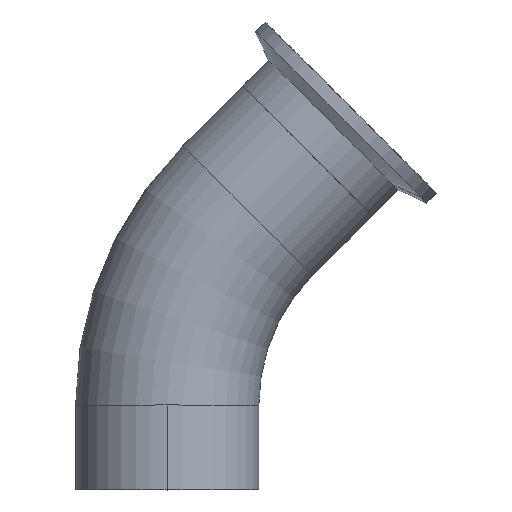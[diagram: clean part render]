
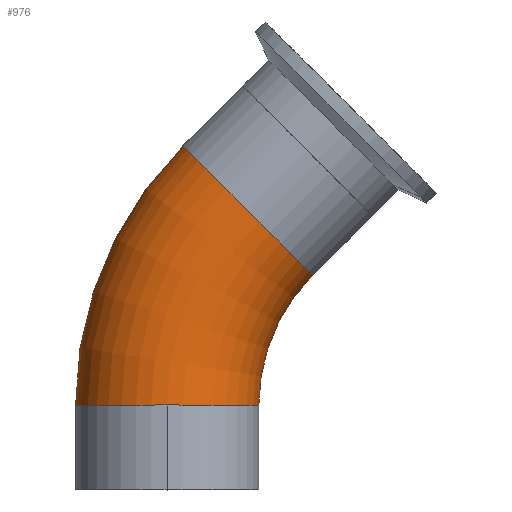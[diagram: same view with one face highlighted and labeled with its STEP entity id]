
A CAD part, top view. The second image highlights one B-rep face of the part: STEP entity #976.
In plain terms, the highlighted toroidal (fillet/blend) face has major radius 57.15 mm and minor radius 19.05 mm.
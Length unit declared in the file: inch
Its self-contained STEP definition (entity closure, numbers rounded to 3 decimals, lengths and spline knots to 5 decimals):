
#56 = CARTESIAN_POINT ( 'NONE',  ( 1.15963, 1.8425, 2.96594 ) ) ;
#104 = AXIS2_PLACEMENT_3D ( 'NONE', #969, #480, #1044 ) ;
#122 = AXIS2_PLACEMENT_3D ( 'NONE', #463, #994, #640 ) ;
#128 = AXIS2_PLACEMENT_3D ( 'NONE', #56, #634, #138 ) ;
#130 = AXIS2_PLACEMENT_3D ( 'NONE', #868, #376, #943 ) ;
#138 = DIRECTION ( 'NONE',  ( -1., 0., 0. ) ) ;
#147 = AXIS2_PLACEMENT_3D ( 'NONE', #194, #951, #219 ) ;
#183 = ORIENTED_EDGE ( 'NONE', *, *, #247, .T. ) ;
#191 = CIRCLE ( 'NONE', #122, 0.75 ) ;
#194 = CARTESIAN_POINT ( 'NONE',  ( 1.81864, 3.43349, 2.96594 ) ) ;
#201 = DIRECTION ( 'NONE',  ( 0., 0., 1. ) ) ;
#219 = DIRECTION ( 'NONE',  ( -0.707, 0.707, 0. ) ) ;
#238 = EDGE_CURVE ( 'NONE', #693, #526, #675, .T. ) ;
#243 = EDGE_CURVE ( 'NONE', #693, #443, #432, .T. ) ;
#247 = EDGE_CURVE ( 'NONE', #443, #1042, #845, .T. ) ;
#253 = EDGE_CURVE ( 'NONE', #1042, #977, #191, .T. ) ;
#256 = EDGE_CURVE ( 'NONE', #526, #977, #599, .T. ) ;
#310 = ORIENTED_EDGE ( 'NONE', *, *, #238, .F. ) ;
#355 = CARTESIAN_POINT ( 'NONE',  ( 2.34897, 2.90316, 2.96594 ) ) ;
#357 = DIRECTION ( 'NONE',  ( 1., 0., 0. ) ) ;
#376 = DIRECTION ( 'NONE',  ( 0., 0., 1. ) ) ;
#425 = ORIENTED_EDGE ( 'NONE', *, *, #256, .F. ) ;
#432 = CIRCLE ( 'NONE', #130, 3. ) ;
#441 = CARTESIAN_POINT ( 'NONE',  ( 1.15963, 1.8425, 3.71594 ) ) ;
#443 = VERTEX_POINT ( 'NONE', #703 ) ;
#463 = CARTESIAN_POINT ( 'NONE',  ( 1.15963, 1.8425, 2.96594 ) ) ;
#480 = DIRECTION ( 'NONE',  ( 0., 0., 1. ) ) ;
#526 = VERTEX_POINT ( 'NONE', #355 ) ;
#533 = TOROIDAL_SURFACE ( 'NONE', #729, 2.25, 0.75 ) ;
#599 = CIRCLE ( 'NONE', #104, 1.5 ) ;
#634 = DIRECTION ( 'NONE',  ( 0., 1., 0. ) ) ;
#640 = DIRECTION ( 'NONE',  ( -1., 0., 0. ) ) ;
#675 = CIRCLE ( 'NONE', #147, 0.75 ) ;
#693 = VERTEX_POINT ( 'NONE', #846 ) ;
#703 = CARTESIAN_POINT ( 'NONE',  ( 0.40963, 1.8425, 2.96594 ) ) ;
#729 = AXIS2_PLACEMENT_3D ( 'NONE', #854, #201, #357 ) ;
#754 = FACE_OUTER_BOUND ( 'NONE', #967, .T. ) ;
#772 = CARTESIAN_POINT ( 'NONE',  ( 1.90963, 1.8425, 2.96594 ) ) ;
#837 = ORIENTED_EDGE ( 'NONE', *, *, #253, .T. ) ;
#845 = CIRCLE ( 'NONE', #128, 0.75 ) ;
#846 = CARTESIAN_POINT ( 'NONE',  ( 1.28831, 3.96382, 2.96594 ) ) ;
#854 = CARTESIAN_POINT ( 'NONE',  ( 3.40963, 1.8425, 2.96594 ) ) ;
#868 = CARTESIAN_POINT ( 'NONE',  ( 3.40963, 1.8425, 2.96594 ) ) ;
#943 = DIRECTION ( 'NONE',  ( 1., 0., 0. ) ) ;
#951 = DIRECTION ( 'NONE',  ( 0.707, 0.707, 0. ) ) ;
#957 = ORIENTED_EDGE ( 'NONE', *, *, #243, .T. ) ;
#967 = EDGE_LOOP ( 'NONE', ( #310, #957, #183, #837, #425 ) ) ;
#969 = CARTESIAN_POINT ( 'NONE',  ( 3.40963, 1.8425, 2.96594 ) ) ;
#976 = ADVANCED_FACE ( 'NONE', ( #754 ), #533, .T. ) ;
#977 = VERTEX_POINT ( 'NONE', #772 ) ;
#994 = DIRECTION ( 'NONE',  ( 0., 1., 0. ) ) ;
#1042 = VERTEX_POINT ( 'NONE', #441 ) ;
#1044 = DIRECTION ( 'NONE',  ( 1., 0., 0. ) ) ;
